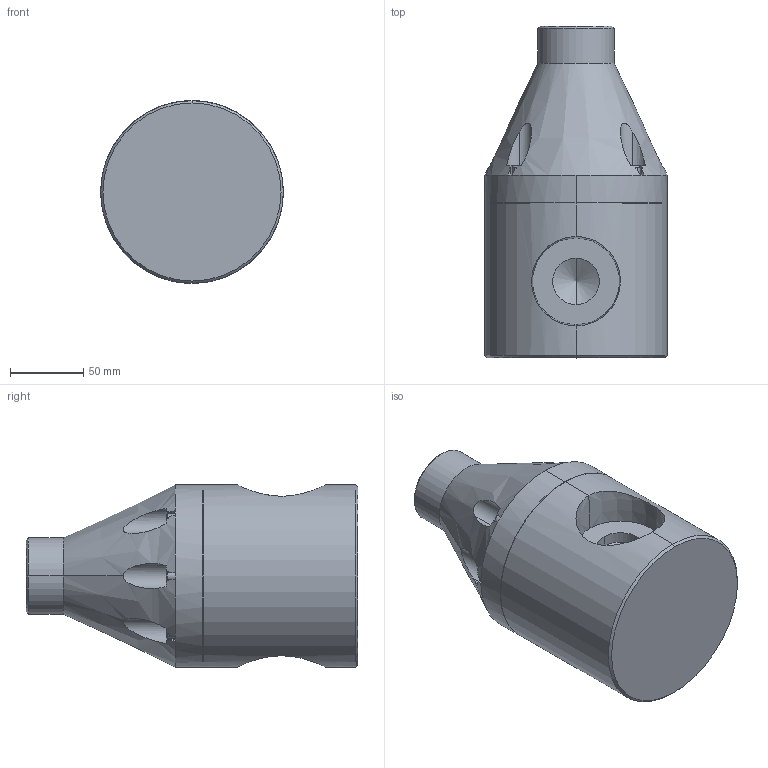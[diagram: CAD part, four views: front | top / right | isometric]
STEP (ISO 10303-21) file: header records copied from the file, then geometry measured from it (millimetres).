
FILE_DESCRIPTION (( 'STEP AP203' ), '1' );
FILE_NAME ('GBP2000-NPT.STEP', '2015-04-27T09:58:30', ( 'Dan Bernard' ), ( '' ), 'SwSTEP 2.0', 'SolidWorks 2008', '' );
FILE_SCHEMA (( 'CONFIG_CONTROL_DESIGN' ));
Length unit declared in the file: inch
Products named in the file (1): GBP2000-NPT
Bounding box: 124.46 x 226.06 x 124.46 mm (x, y, z)
Volume: 1880534.5 mm3; surface area: 117063.6 mm2
Topology: 1 solids, 1 shells, 197 faces, 492 edges, 312 vertices
Faces by surface type: plane 125, cylinder 42, cone 30
Entity records: 6534 total; most frequent: CARTESIAN_POINT 1779, ORIENTED_EDGE 976, DIRECTION 950, EDGE_CURVE 488, AXIS2_PLACEMENT_3D 318, VECTOR 314, LINE 314, VERTEX_POINT 312
